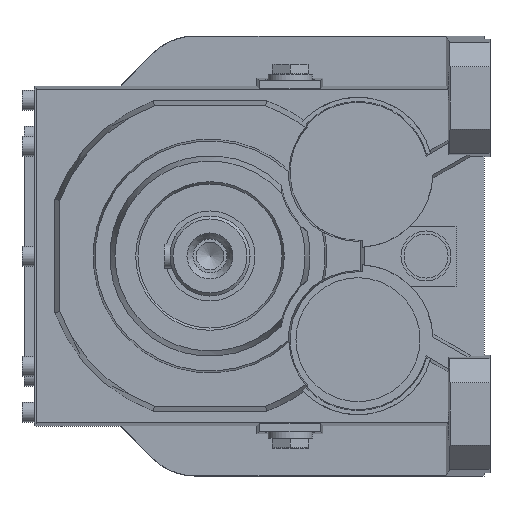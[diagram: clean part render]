
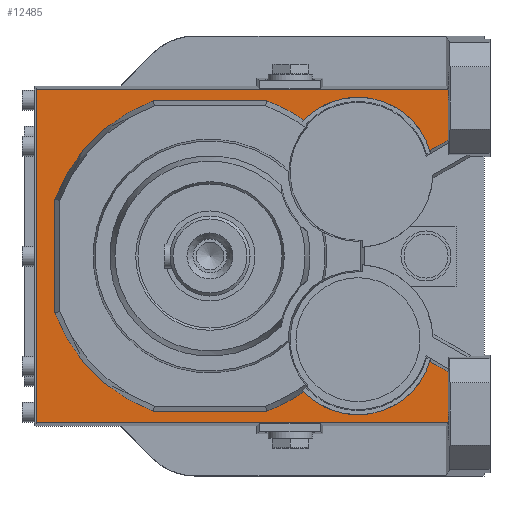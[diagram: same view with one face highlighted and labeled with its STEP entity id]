
A CAD part, left-side view. The second image highlights one B-rep face of the part: STEP entity #12485.
In plain terms, the highlighted planar face has unit normal (-1, 0, 0) as drawn and (1, 0, 0) by its records, which use the part's own axes.
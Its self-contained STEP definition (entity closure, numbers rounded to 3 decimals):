
#134=CIRCLE('',#13030,82.581);
#162=CIRCLE('',#13077,82.581);
#168=CIRCLE('',#13086,37.5);
#169=CIRCLE('',#13087,82.581);
#170=CIRCLE('',#13088,82.581);
#171=CIRCLE('',#13089,37.5);
#688=ORIENTED_EDGE('',*,*,#3262,.F.);
#689=ORIENTED_EDGE('',*,*,#3263,.F.);
#690=ORIENTED_EDGE('',*,*,#3264,.T.);
#691=ORIENTED_EDGE('',*,*,#3190,.F.);
#692=ORIENTED_EDGE('',*,*,#3265,.F.);
#693=ORIENTED_EDGE('',*,*,#3266,.F.);
#694=ORIENTED_EDGE('',*,*,#3267,.T.);
#695=ORIENTED_EDGE('',*,*,#3268,.F.);
#696=ORIENTED_EDGE('',*,*,#3269,.T.);
#697=ORIENTED_EDGE('',*,*,#3251,.F.);
#698=ORIENTED_EDGE('',*,*,#3270,.T.);
#699=ORIENTED_EDGE('',*,*,#3271,.F.);
#700=ORIENTED_EDGE('',*,*,#3272,.F.);
#701=ORIENTED_EDGE('',*,*,#3273,.T.);
#702=ORIENTED_EDGE('',*,*,#3274,.F.);
#703=ORIENTED_EDGE('',*,*,#3275,.F.);
#3190=EDGE_CURVE('',#4479,#4480,#134,.T.);
#3251=EDGE_CURVE('',#4526,#4527,#162,.T.);
#3262=EDGE_CURVE('',#4537,#4538,#5354,.T.);
#3263=EDGE_CURVE('',#4539,#4537,#5355,.F.);
#3264=EDGE_CURVE('',#4539,#4480,#168,.T.);
#3265=EDGE_CURVE('',#4540,#4479,#5356,.T.);
#3266=EDGE_CURVE('',#4541,#4540,#169,.T.);
#3267=EDGE_CURVE('',#4541,#4542,#5357,.T.);
#3268=EDGE_CURVE('',#4543,#4542,#170,.T.);
#3269=EDGE_CURVE('',#4543,#4527,#5358,.T.);
#3270=EDGE_CURVE('',#4526,#4544,#171,.T.);
#3271=EDGE_CURVE('',#4545,#4544,#5359,.F.);
#3272=EDGE_CURVE('',#4546,#4545,#5360,.T.);
#3273=EDGE_CURVE('',#4546,#4547,#5361,.T.);
#3274=EDGE_CURVE('',#4548,#4547,#5362,.T.);
#3275=EDGE_CURVE('',#4538,#4548,#5363,.T.);
#4479=VERTEX_POINT('',#16449);
#4480=VERTEX_POINT('',#16451);
#4526=VERTEX_POINT('',#16661);
#4527=VERTEX_POINT('',#16663);
#4537=VERTEX_POINT('',#16702);
#4538=VERTEX_POINT('',#16703);
#4539=VERTEX_POINT('',#16705);
#4540=VERTEX_POINT('',#16708);
#4541=VERTEX_POINT('',#16710);
#4542=VERTEX_POINT('',#16712);
#4543=VERTEX_POINT('',#16714);
#4544=VERTEX_POINT('',#16717);
#4545=VERTEX_POINT('',#16719);
#4546=VERTEX_POINT('',#16721);
#4547=VERTEX_POINT('',#16723);
#4548=VERTEX_POINT('',#16725);
#5354=LINE('',#16701,#6242);
#5355=LINE('',#16704,#6243);
#5356=LINE('',#16707,#6244);
#5357=LINE('',#16711,#6245);
#5358=LINE('',#16715,#6246);
#5359=LINE('',#16718,#6247);
#5360=LINE('',#16720,#6248);
#5361=LINE('',#16722,#6249);
#5362=LINE('',#16724,#6250);
#5363=LINE('',#16726,#6251);
#6242=VECTOR('',#13991,1000.);
#6243=VECTOR('',#13992,1000.);
#6244=VECTOR('',#13995,1000.);
#6245=VECTOR('',#13998,1000.);
#6246=VECTOR('',#14001,1000.);
#6247=VECTOR('',#14004,1000.);
#6248=VECTOR('',#14005,1000.);
#6249=VECTOR('',#14006,1000.);
#6250=VECTOR('',#14007,1000.);
#6251=VECTOR('',#14008,1000.);
#7147=EDGE_LOOP('',(#688,#689,#690,#691,#692,#693,#694,#695,#696,#697,#698,
#699,#700,#701,#702,#703));
#7819=FACE_BOUND('',#7147,.T.);
#8471=PLANE('',#13085);
#12485=ADVANCED_FACE('',(#7819),#8471,.F.);
#13030=AXIS2_PLACEMENT_3D('',#16450,#13877,#13878);
#13077=AXIS2_PLACEMENT_3D('',#16662,#13973,#13974);
#13085=AXIS2_PLACEMENT_3D('',#16700,#13989,#13990);
#13086=AXIS2_PLACEMENT_3D('',#16706,#13993,#13994);
#13087=AXIS2_PLACEMENT_3D('',#16709,#13996,#13997);
#13088=AXIS2_PLACEMENT_3D('',#16713,#13999,#14000);
#13089=AXIS2_PLACEMENT_3D('',#16716,#14002,#14003);
#13877=DIRECTION('',(1.,0.,0.));
#13878=DIRECTION('',(0.,0.,-1.));
#13973=DIRECTION('',(1.,0.,0.));
#13974=DIRECTION('',(0.,0.,-1.));
#13989=DIRECTION('',(-1.,0.,0.));
#13990=DIRECTION('',(0.,0.,1.));
#13991=DIRECTION('',(0.,0.,1.));
#13992=DIRECTION('',(0.,0.866,-0.5));
#13993=DIRECTION('',(-1.,0.,0.));
#13994=DIRECTION('',(0.,0.,1.));
#13995=DIRECTION('',(0.,-1.,0.));
#13996=DIRECTION('',(1.,0.,0.));
#13997=DIRECTION('',(0.,0.,-1.));
#13998=DIRECTION('',(0.,0.,-1.));
#13999=DIRECTION('',(1.,0.,0.));
#14000=DIRECTION('',(0.,0.,-1.));
#14001=DIRECTION('',(0.,-1.,0.));
#14002=DIRECTION('',(-1.,0.,0.));
#14003=DIRECTION('',(0.,0.,1.));
#14004=DIRECTION('',(0.,-0.866,-0.5));
#14005=DIRECTION('',(0.,0.,1.));
#14006=DIRECTION('',(0.,1.,0.));
#14007=DIRECTION('',(0.,0.,-1.));
#14008=DIRECTION('',(0.,1.,0.));
#16449=CARTESIAN_POINT('',(176.5,-28.299,77.581));
#16450=CARTESIAN_POINT('',(176.5,0.,0.));
#16451=CARTESIAN_POINT('',(176.5,-47.001,67.901));
#16661=CARTESIAN_POINT('',(176.5,-47.001,-67.901));
#16662=CARTESIAN_POINT('',(176.5,0.,0.));
#16663=CARTESIAN_POINT('',(176.5,-28.299,-77.581));
#16700=CARTESIAN_POINT('',(176.5,-110.,50.));
#16701=CARTESIAN_POINT('',(176.5,-119.136,110.));
#16702=CARTESIAN_POINT('',(176.5,-119.136,57.976));
#16703=CARTESIAN_POINT('',(176.5,-119.136,83.044));
#16704=CARTESIAN_POINT('',(176.5,-4.679,-8.105));
#16705=CARTESIAN_POINT('',(176.5,-109.896,52.642));
#16706=CARTESIAN_POINT('',(176.5,-73.98,41.856));
#16707=CARTESIAN_POINT('',(176.5,40.,77.581));
#16708=CARTESIAN_POINT('',(176.5,28.299,77.581));
#16709=CARTESIAN_POINT('',(176.5,0.,0.));
#16710=CARTESIAN_POINT('',(176.5,77.581,28.299));
#16711=CARTESIAN_POINT('',(176.5,77.581,30.));
#16712=CARTESIAN_POINT('',(176.5,77.581,-28.299));
#16713=CARTESIAN_POINT('',(176.5,0.,0.));
#16714=CARTESIAN_POINT('',(176.5,28.299,-77.581));
#16715=CARTESIAN_POINT('',(176.5,40.,-77.581));
#16716=CARTESIAN_POINT('',(176.5,-73.98,-41.856));
#16717=CARTESIAN_POINT('',(176.5,-109.896,-52.642));
#16718=CARTESIAN_POINT('',(176.5,-4.679,8.105));
#16719=CARTESIAN_POINT('',(176.5,-119.136,-57.976));
#16720=CARTESIAN_POINT('',(176.5,-119.136,110.));
#16721=CARTESIAN_POINT('',(176.5,-119.136,-83.044));
#16722=CARTESIAN_POINT('',(176.5,-126.,-83.044));
#16723=CARTESIAN_POINT('',(176.5,87.,-83.044));
#16724=CARTESIAN_POINT('',(176.5,87.,83.044));
#16725=CARTESIAN_POINT('',(176.5,87.,83.044));
#16726=CARTESIAN_POINT('',(176.5,-126.,83.044));
